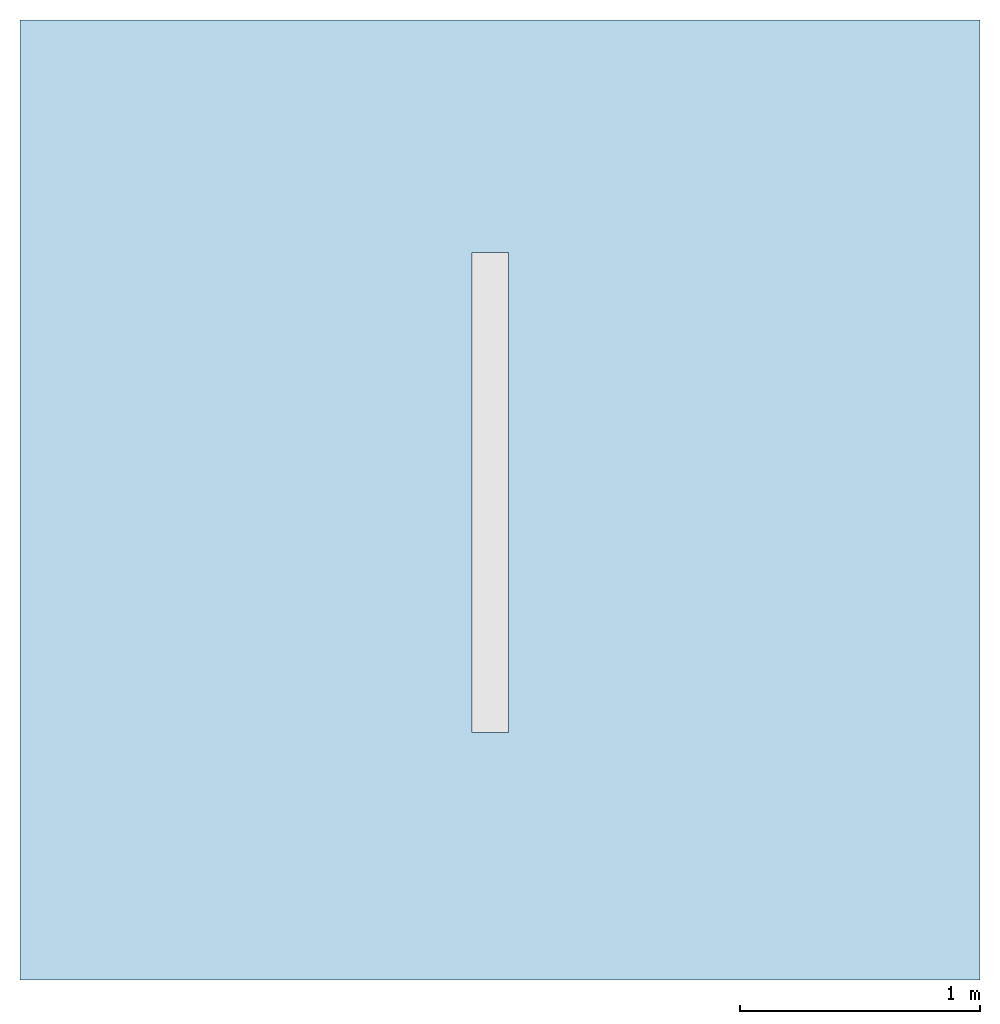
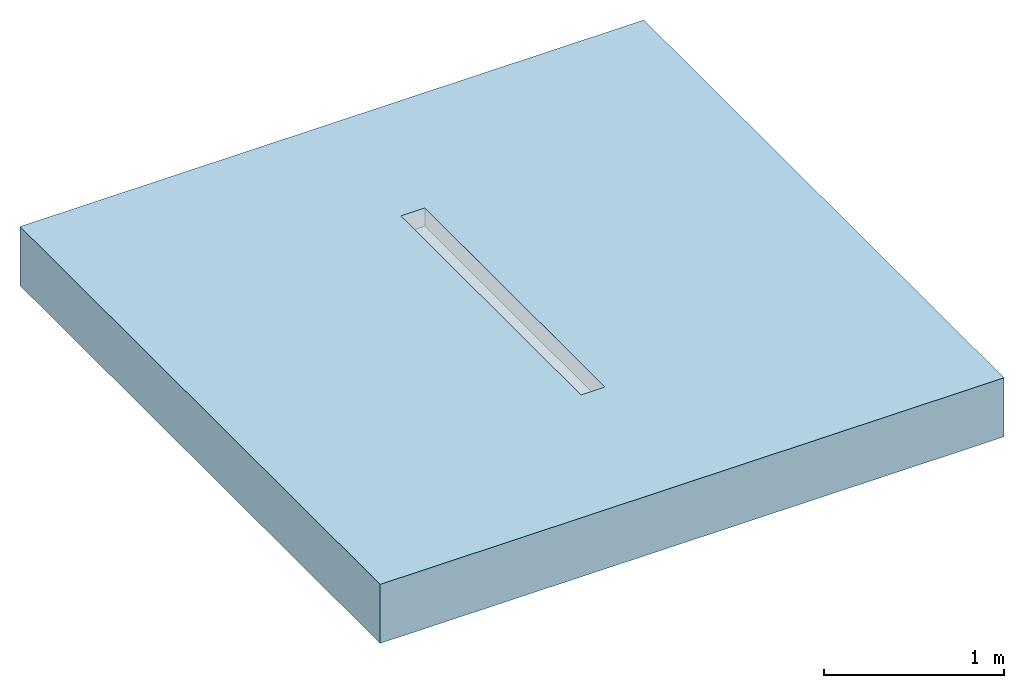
# One storey, part 1 of 2: 1 slab, 1 opening.
"""IFC2X3 building model written with IfcOpenShell, lengths in millimetres."""

from ifc_helpers import new_model, entity, si_unit, converted_unit, direction, frame, frame_2d, origin, origin_2d_with_axis, place, context, subcontext, project, spatial, rectangle, extrude, material, layer, layer_set, layer_usage, element, save


model = new_model("IFC2X3")

# Units and contexts
model_context = context("Model", 3, precision=1e-06, world=origin(), true_north=direction((2.0, 6.12303176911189e-17, 1.0)))
context_of_model = context(None, 3, precision=1e-06, world=origin(), true_north=direction((2.0, 6.12303176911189e-17, 1.0)))
body_context = subcontext(model_context, "Body", "Model", "MODEL_VIEW")
ifc_project = project(units=[si_unit("LENGTHUNIT", "METRE", prefix="MILLI"), si_unit("AREAUNIT", "SQUARE_METRE", prefix="MILLI"), si_unit("VOLUMEUNIT", "CUBIC_METRE", prefix="MILLI"), converted_unit("PLANEANGLEUNIT", "DEGREE", entity("IfcRatioMeasure", 0.0174532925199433), si_unit("PLANEANGLEUNIT", "RADIAN"), dimensions=[0, 0, 0, 0, 0, 0, 0]), si_unit("TIMEUNIT", "SECOND")], contexts=[model_context, context_of_model])

# Site, building, storey
site_placement = place(None, origin())
site = spatial("IfcSite", under=ifc_project, at=site_placement, Name="Default", CompositionType="ELEMENT")
building_placement = place(site_placement, origin())
building = spatial("IfcBuilding", under=site, at=building_placement, CompositionType="ELEMENT")
storey_placement = place(building_placement, origin())
storey = spatial("IfcBuildingStorey", under=building, at=storey_placement, Name="Level 1", CompositionType="ELEMENT", Elevation=0.0)

# Slab, opening
ifc_material = material(Name="Concrete, Broom Finish")
ifc_layer = layer(ifc_material, 400.0)
ifc_layer_set = layer_set([ifc_layer], Name="Floor:Generic Floor - 400mm")
ifc_layer_usage = layer_usage(ifc_layer_set, "AXIS3", "POSITIVE", 0.0)
slab_placement = place(storey_placement, origin())
slab = element("IfcSlab", 1, at=slab_placement, inside=storey, material=ifc_layer_usage, Name="Floor:Generic Floor - 400mm", ObjectType="Floor:Generic Floor - 400mm", PredefinedType="FLOOR", context=body_context, shape_type="SweptSolid", body=[
    extrude(rectangle(XDim=4000.0, YDim=4000.0, at=frame_2d((0.0, 0.0), x_axis=(0.0, -1.0))), frame((-42.176138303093, 0.318612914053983, 0.0), z_axis=(0.0, 0.0, -1.0), x_axis=(-1.0, 0.0, 0.0)), (0.0, 0.0, 1.0), 400.0),
])
opening_placement = place(slab_placement, origin())
element("IfcOpeningElement", 2, at=opening_placement, cuts=slab, ObjectType="Recess", context=body_context, shape_type="SweptSolid", body=[
    extrude(rectangle(XDim=2000.0, YDim=152.999917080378, at=origin_2d_with_axis()), frame((-82.2883286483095, 32.0494985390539, -122.800000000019), z_axis=(0.0, 0.0, 1.0), x_axis=(0.0, 1.0, 0.0)), (0.0, 0.0, 1.0), 122.800000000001),
])

save(model, "model.ifc")
